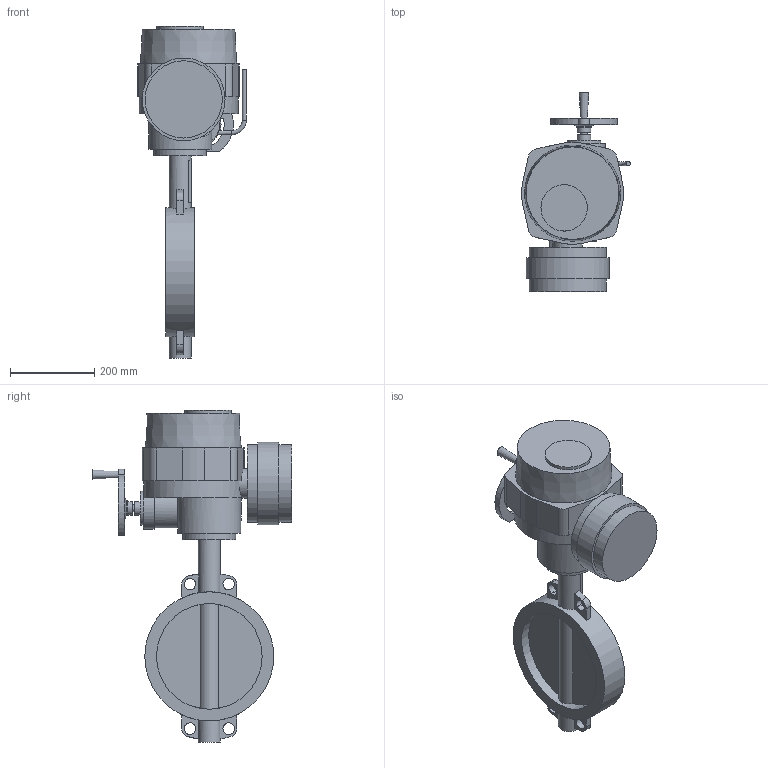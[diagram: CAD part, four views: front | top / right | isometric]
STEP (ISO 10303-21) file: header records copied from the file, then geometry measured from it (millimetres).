
FILE_DESCRIPTION(('STEP AP203'), '1');
FILE_NAME('Çàòâîð 017W.Z(÷óãóí) DN250+ÝÏ QT.A050', '', ('UNSPECIFIED'), ('UNSPECIFIED'), 'ASCON STEP Converter 1.6', 'ASCON Math Kernel', '');
FILE_SCHEMA(('CONFIG_CONTROL_DESIGN'));
Length unit declared in the file: millimetre
Bounding box: 257.68 x 472 x 787 mm (x, y, z)
Volume: 14315401.2 mm3; surface area: 826652.1 mm2
Topology: 1 solids, 4 shells, 883 faces, 2559 edges, 1650 vertices
Faces by surface type: cylinder 650, plane 229, cone 3, torus 1
Full cylindrical faces by diameter (mm): 6.7 x8, 10 x2, 12 x4, 16 x1, 28.6 x1, 32 x2, 35 x2, 52 x2, 70 x2, 80 x1, 100 x1, 110 x1, 125 x1, 150 x1, 183 x2, 196 x1, 250.4 x2, 306 x1
Entity records: 38024 total; most frequent: CARTESIAN_POINT 6511, DIRECTION 5636, ORIENTED_EDGE 4964, EDGE_CURVE 2521, AXIS2_PLACEMENT_3D 2262, VERTEX_POINT 1650, CIRCLE 1379, LINE 1112
